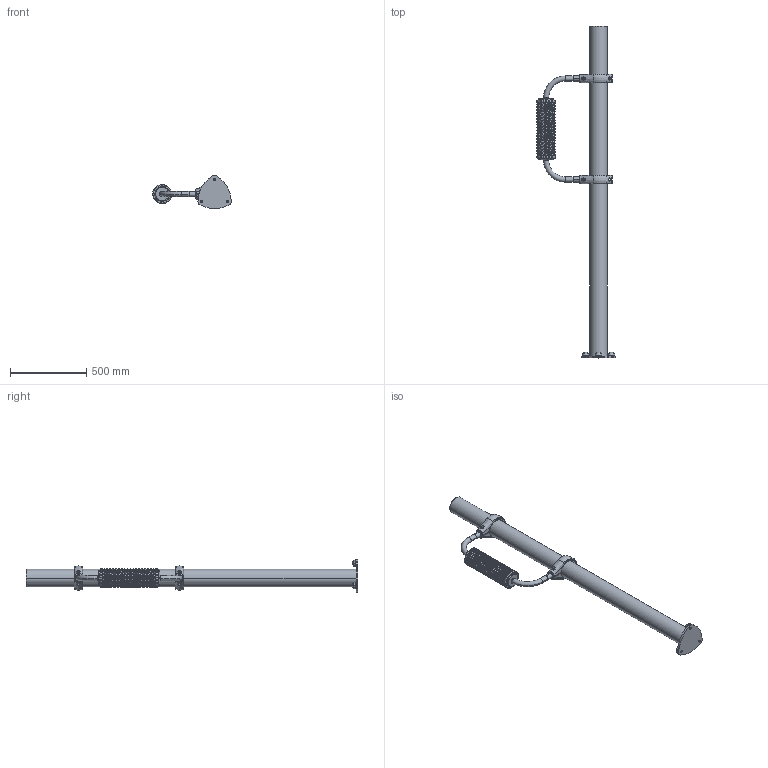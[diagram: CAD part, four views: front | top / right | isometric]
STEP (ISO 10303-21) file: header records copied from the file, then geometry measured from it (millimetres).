
FILE_DESCRIPTION (( 'STEP AP214' ), '1' );
FILE_NAME ('PMS0819 - ROULEAU ACCUPRESSION.STEP', '2025-05-21T12:41:08', ( '' ), ( '' ), 'SwSTEP 2.0', 'SolidWorks 2024', '' );
FILE_SCHEMA (( 'AUTOMOTIVE_DESIGN' ));
Products named in the file (1): PMS0819 - ROULEAU ACCUPRESSION
Bounding box: 514.05 x 2175 x 217.28 mm (x, y, z)
Surface area: 1308790.5 mm2 (no closed solid volume)
Topology: 0 solids, 33 shells, 1508 faces, 4133 edges, 2558 vertices
Faces by surface type: bspline 1073, cylinder 261, plane 96, torus 53, cone 15, sphere 10
Entity records: 565818 total; most frequent: CARTESIAN_POINT 541490, ORIENTED_EDGE 7316, EDGE_CURVE 4119, VERTEX_POINT 2551, DIRECTION 2177, EDGE_LOOP 1528, ADVANCED_FACE 1505, FACE_OUTER_BOUND 1505
